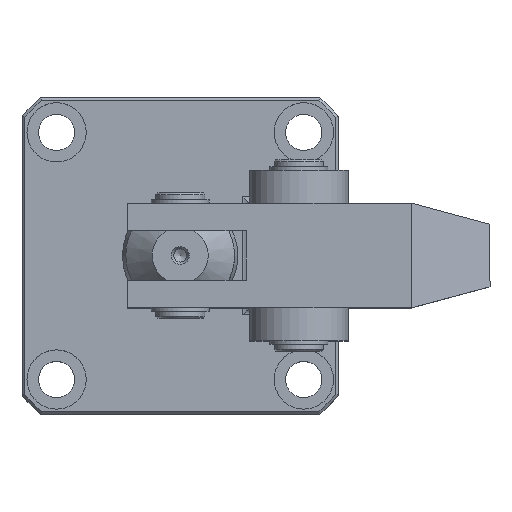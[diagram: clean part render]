
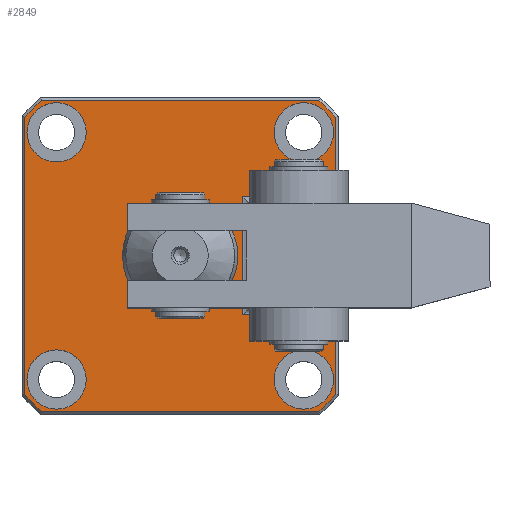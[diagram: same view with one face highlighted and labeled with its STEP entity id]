
A CAD part, top view. The second image highlights one B-rep face of the part: STEP entity #2849.
In plain terms, the highlighted planar face has unit normal (0, 0, 1).
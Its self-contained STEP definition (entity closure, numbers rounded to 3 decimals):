
#114=CIRCLE('',#3048,63.2);
#115=CIRCLE('',#3049,63.2);
#116=CIRCLE('',#3050,63.2);
#117=CIRCLE('',#3051,63.2);
#118=CIRCLE('',#3052,17.5);
#119=CIRCLE('',#3053,9.);
#120=CIRCLE('',#3054,9.);
#121=CIRCLE('',#3055,9.);
#122=CIRCLE('',#3056,9.);
#265=PLANE('',#3047);
#347=LINE('',#4145,#479);
#357=LINE('',#4173,#489);
#358=LINE('',#4175,#490);
#359=LINE('',#4177,#491);
#360=LINE('',#4179,#492);
#361=LINE('',#4183,#493);
#362=LINE('',#4187,#494);
#363=LINE('',#4191,#495);
#479=VECTOR('',#3379,1000.);
#489=VECTOR('',#3395,1000.);
#490=VECTOR('',#3396,1000.);
#491=VECTOR('',#3397,1000.);
#492=VECTOR('',#3398,1000.);
#493=VECTOR('',#3401,1000.);
#494=VECTOR('',#3404,1000.);
#495=VECTOR('',#3407,1000.);
#630=ORIENTED_EDGE('',*,*,#1201,.T.);
#631=ORIENTED_EDGE('',*,*,#1213,.T.);
#632=ORIENTED_EDGE('',*,*,#1214,.T.);
#633=ORIENTED_EDGE('',*,*,#1215,.T.);
#634=ORIENTED_EDGE('',*,*,#1216,.T.);
#635=ORIENTED_EDGE('',*,*,#1217,.T.);
#636=ORIENTED_EDGE('',*,*,#1218,.T.);
#637=ORIENTED_EDGE('',*,*,#1219,.T.);
#638=ORIENTED_EDGE('',*,*,#1220,.T.);
#639=ORIENTED_EDGE('',*,*,#1221,.T.);
#640=ORIENTED_EDGE('',*,*,#1222,.T.);
#641=ORIENTED_EDGE('',*,*,#1223,.T.);
#642=ORIENTED_EDGE('',*,*,#1224,.T.);
#643=ORIENTED_EDGE('',*,*,#1225,.F.);
#644=ORIENTED_EDGE('',*,*,#1226,.F.);
#645=ORIENTED_EDGE('',*,*,#1227,.F.);
#646=ORIENTED_EDGE('',*,*,#1228,.F.);
#1201=EDGE_CURVE('',#1492,#1491,#347,.T.);
#1213=EDGE_CURVE('',#1491,#1503,#357,.F.);
#1214=EDGE_CURVE('',#1503,#1504,#358,.F.);
#1215=EDGE_CURVE('',#1504,#1505,#359,.F.);
#1216=EDGE_CURVE('',#1505,#1506,#360,.T.);
#1217=EDGE_CURVE('',#1506,#1507,#114,.T.);
#1218=EDGE_CURVE('',#1507,#1508,#361,.T.);
#1219=EDGE_CURVE('',#1508,#1509,#115,.T.);
#1220=EDGE_CURVE('',#1509,#1510,#362,.T.);
#1221=EDGE_CURVE('',#1510,#1511,#116,.T.);
#1222=EDGE_CURVE('',#1511,#1512,#363,.T.);
#1223=EDGE_CURVE('',#1512,#1492,#117,.T.);
#1224=EDGE_CURVE('',#1513,#1513,#118,.T.);
#1225=EDGE_CURVE('',#1514,#1514,#119,.T.);
#1226=EDGE_CURVE('',#1515,#1515,#120,.T.);
#1227=EDGE_CURVE('',#1516,#1516,#121,.T.);
#1228=EDGE_CURVE('',#1517,#1517,#122,.T.);
#1491=VERTEX_POINT('',#4144);
#1492=VERTEX_POINT('',#4146);
#1503=VERTEX_POINT('',#4174);
#1504=VERTEX_POINT('',#4176);
#1505=VERTEX_POINT('',#4178);
#1506=VERTEX_POINT('',#4180);
#1507=VERTEX_POINT('',#4182);
#1508=VERTEX_POINT('',#4184);
#1509=VERTEX_POINT('',#4186);
#1510=VERTEX_POINT('',#4188);
#1511=VERTEX_POINT('',#4190);
#1512=VERTEX_POINT('',#4192);
#1513=VERTEX_POINT('',#4195);
#1514=VERTEX_POINT('',#4197);
#1515=VERTEX_POINT('',#4199);
#1516=VERTEX_POINT('',#4201);
#1517=VERTEX_POINT('',#4203);
#1713=EDGE_LOOP('',(#630,#631,#632,#633,#634,#635,#636,#637,#638,#639,#640,
#641));
#1714=EDGE_LOOP('',(#642));
#1715=EDGE_LOOP('',(#643));
#1716=EDGE_LOOP('',(#644));
#1717=EDGE_LOOP('',(#645));
#1718=EDGE_LOOP('',(#646));
#1969=FACE_BOUND('',#1713,.T.);
#1970=FACE_BOUND('',#1714,.T.);
#1971=FACE_BOUND('',#1715,.T.);
#1972=FACE_BOUND('',#1716,.T.);
#1973=FACE_BOUND('',#1717,.T.);
#1974=FACE_BOUND('',#1718,.T.);
#2849=ADVANCED_FACE('',(#1969,#1970,#1971,#1972,#1973,#1974),#265,.T.);
#3047=AXIS2_PLACEMENT_3D('',#4172,#3393,#3394);
#3048=AXIS2_PLACEMENT_3D('',#4181,#3399,#3400);
#3049=AXIS2_PLACEMENT_3D('',#4185,#3402,#3403);
#3050=AXIS2_PLACEMENT_3D('',#4189,#3405,#3406);
#3051=AXIS2_PLACEMENT_3D('',#4193,#3408,#3409);
#3052=AXIS2_PLACEMENT_3D('',#4194,#3410,#3411);
#3053=AXIS2_PLACEMENT_3D('',#4196,#3412,#3413);
#3054=AXIS2_PLACEMENT_3D('',#4198,#3414,#3415);
#3055=AXIS2_PLACEMENT_3D('',#4200,#3416,#3417);
#3056=AXIS2_PLACEMENT_3D('',#4202,#3418,#3419);
#3379=DIRECTION('',(0.,1.,0.));
#3393=DIRECTION('',(0.,0.,1.));
#3394=DIRECTION('',(0.,-1.,0.));
#3395=DIRECTION('',(1.,0.,0.));
#3396=DIRECTION('',(0.,-1.,0.));
#3397=DIRECTION('',(-1.,0.,0.));
#3398=DIRECTION('',(0.,1.,0.));
#3399=DIRECTION('',(0.,0.,1.));
#3400=DIRECTION('',(0.,-1.,0.));
#3401=DIRECTION('',(-1.,0.,0.));
#3402=DIRECTION('',(0.,0.,1.));
#3403=DIRECTION('',(0.,-1.,0.));
#3404=DIRECTION('',(0.,-1.,0.));
#3405=DIRECTION('',(0.,0.,1.));
#3406=DIRECTION('',(0.,-1.,0.));
#3407=DIRECTION('',(1.,0.,0.));
#3408=DIRECTION('',(0.,0.,1.));
#3409=DIRECTION('',(0.,-1.,0.));
#3410=DIRECTION('',(0.,0.,-1.));
#3411=DIRECTION('',(0.,-1.,0.));
#3412=DIRECTION('',(0.,0.,1.));
#3413=DIRECTION('',(1.,0.,0.));
#3414=DIRECTION('',(0.,0.,1.));
#3415=DIRECTION('',(1.,0.,0.));
#3416=DIRECTION('',(0.,0.,1.));
#3417=DIRECTION('',(1.,0.,0.));
#3418=DIRECTION('',(0.,0.,1.));
#3419=DIRECTION('',(1.,0.,0.));
#4144=CARTESIAN_POINT('',(47.2,-17.9,119.));
#4145=CARTESIAN_POINT('',(47.2,0.,119.));
#4146=CARTESIAN_POINT('',(47.2,-42.029,119.));
#4172=CARTESIAN_POINT('',(0.,0.,119.));
#4173=CARTESIAN_POINT('',(21.,-17.9,119.));
#4174=CARTESIAN_POINT('',(19.,-17.9,119.));
#4175=CARTESIAN_POINT('',(19.,0.,119.));
#4176=CARTESIAN_POINT('',(19.,17.9,119.));
#4177=CARTESIAN_POINT('',(0.,17.9,119.));
#4178=CARTESIAN_POINT('',(47.2,17.9,119.));
#4179=CARTESIAN_POINT('',(47.2,0.,119.));
#4180=CARTESIAN_POINT('',(47.2,42.029,119.));
#4181=CARTESIAN_POINT('',(0.,0.,119.));
#4182=CARTESIAN_POINT('',(42.029,47.2,119.));
#4183=CARTESIAN_POINT('',(0.,47.2,119.));
#4184=CARTESIAN_POINT('',(-42.029,47.2,119.));
#4185=CARTESIAN_POINT('',(0.,0.,119.));
#4186=CARTESIAN_POINT('',(-47.2,42.029,119.));
#4187=CARTESIAN_POINT('',(-47.2,0.,119.));
#4188=CARTESIAN_POINT('',(-47.2,-42.029,119.));
#4189=CARTESIAN_POINT('',(0.,0.,119.));
#4190=CARTESIAN_POINT('',(-42.029,-47.2,119.));
#4191=CARTESIAN_POINT('',(0.,-47.2,119.));
#4192=CARTESIAN_POINT('',(42.029,-47.2,119.));
#4193=CARTESIAN_POINT('',(0.,0.,119.));
#4194=CARTESIAN_POINT('',(0.,0.,119.));
#4195=CARTESIAN_POINT('',(0.,-17.5,119.));
#4196=CARTESIAN_POINT('',(-37.5,-37.5,119.));
#4197=CARTESIAN_POINT('',(-28.5,-37.5,119.));
#4198=CARTESIAN_POINT('',(37.5,-37.5,119.));
#4199=CARTESIAN_POINT('',(46.5,-37.5,119.));
#4200=CARTESIAN_POINT('',(37.5,37.5,119.));
#4201=CARTESIAN_POINT('',(46.5,37.5,119.));
#4202=CARTESIAN_POINT('',(-37.5,37.5,119.));
#4203=CARTESIAN_POINT('',(-28.5,37.5,119.));
